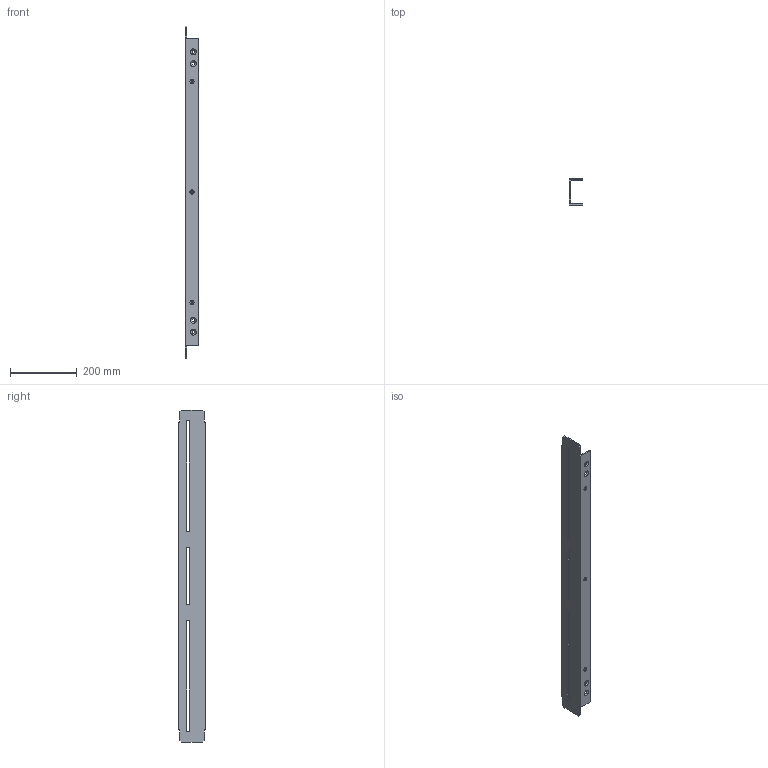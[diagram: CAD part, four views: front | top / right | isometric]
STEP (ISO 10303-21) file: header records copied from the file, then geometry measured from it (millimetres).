
FILE_DESCRIPTION (( 'STEP AP214' ), '1' );
FILE_NAME ('ÂØÀÅ.746222.007 Øâåëëåð.STEP', '2024-04-17T13:45:01', ( '' ), ( '' ), 'SwSTEP 2.0', 'SolidWorks 2019', '' );
FILE_SCHEMA (( 'AUTOMOTIVE_DESIGN' ));
Length unit declared in the file: millimetre
Products named in the file (1): ÂØÀÅ.746222.007 Øâåëëåð
Bounding box: 40 x 80 x 992 mm (x, y, z)
Volume: 555026.6 mm3; surface area: 287599.5 mm2
Topology: 1 solids, 1 shells, 91 faces, 255 edges, 166 vertices
Faces by surface type: cylinder 39, plane 28, cone 24
Entity records: 3093 total; most frequent: DIRECTION 553, CARTESIAN_POINT 513, ORIENTED_EDGE 510, EDGE_CURVE 255, AXIS2_PLACEMENT_3D 206, VERTEX_POINT 166, VECTOR 141, LINE 141
